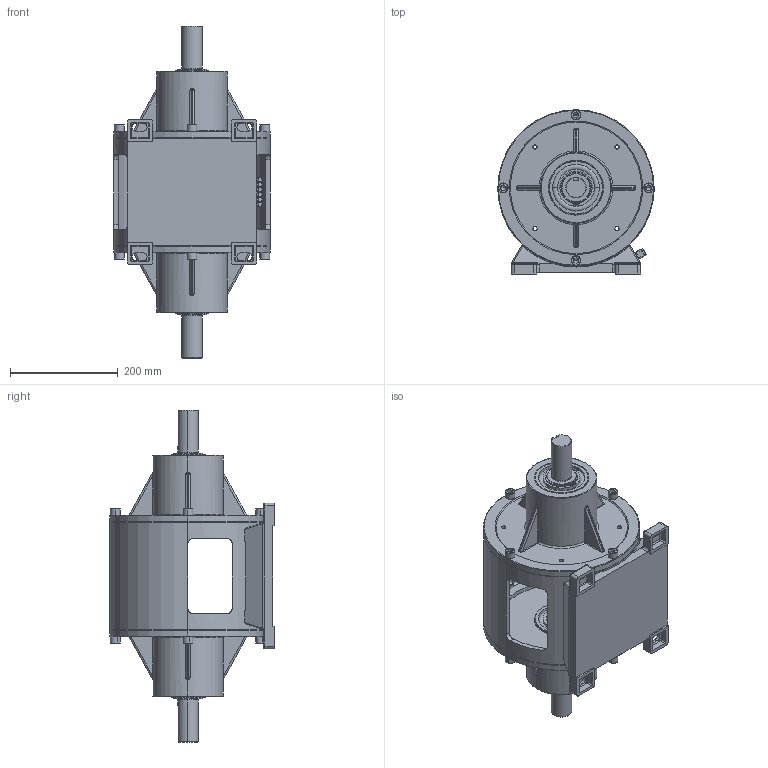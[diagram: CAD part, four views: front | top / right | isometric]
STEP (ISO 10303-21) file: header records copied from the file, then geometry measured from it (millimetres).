
FILE_DESCRIPTION (( 'STEP AP214' ), '1' );
FILE_NAME ('S-T16-A21.STEP', '2017-09-13T02:18:31', ( 'tec4' ), ( '' ), 'SwSTEP 2.0', 'SolidWorks 2015', '' );
FILE_SCHEMA (( 'AUTOMOTIVE_DESIGN' ));
Length unit declared in the file: millimetre
Products named in the file (1): S-T16-A21
Bounding box: 290 x 305 x 616.4 mm (x, y, z)
Surface area: 918563.6 mm2 (no closed solid volume)
Topology: 0 solids, 31 shells, 879 faces, 2560 edges, 1643 vertices
Faces by surface type: cylinder 343, plane 306, torus 130, bspline 66, cone 34
Entity records: 42486 total; most frequent: CARTESIAN_POINT 9963, DIRECTION 5015, ORIENTED_EDGE 4350, EDGE_CURVE 2540, AXIS2_PLACEMENT_3D 1888, VERTEX_POINT 1643, VECTOR 1239, LINE 1239
